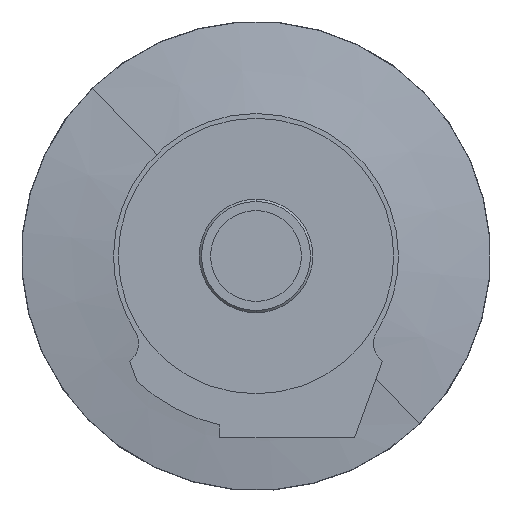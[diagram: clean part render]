
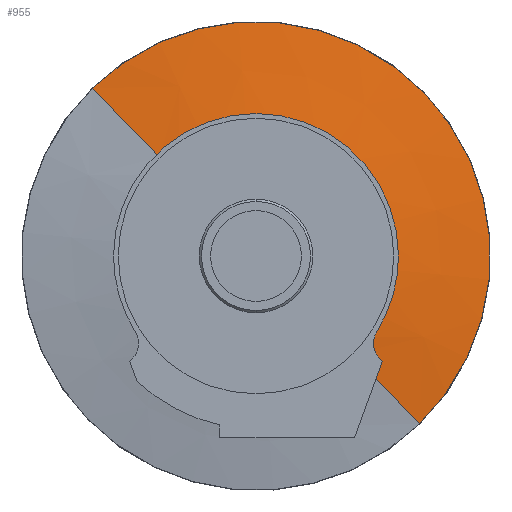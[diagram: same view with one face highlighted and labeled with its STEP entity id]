
A CAD part, front view. The second image highlights one B-rep face of the part: STEP entity #955.
In plain terms, the highlighted conical face has half-angle 81.265 degrees and reference radius 38.506 mm.
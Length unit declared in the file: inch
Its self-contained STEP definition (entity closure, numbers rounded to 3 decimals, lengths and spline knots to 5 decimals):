
#46 = ORIENTED_EDGE ( 'NONE', *, *, #3505, .T. ) ;
#67 = CARTESIAN_POINT ( 'NONE',  ( -8.56254, -4.92891, 0. ) ) ;
#85 = LINE ( 'NONE', #777, #4857 ) ;
#109 = CARTESIAN_POINT ( 'NONE',  ( -9.62027, -5.09211, 1.08603 ) ) ;
#273 = CARTESIAN_POINT ( 'NONE',  ( -7.50481, -5.09211, -1.08603 ) ) ;
#321 = DIRECTION ( 'NONE',  ( -0.698, 0., 0.716 ) ) ;
#328 = ORIENTED_EDGE ( 'NONE', *, *, #833, .T. ) ;
#437 = EDGE_CURVE ( 'NONE', #5892, #6292, #85, .T. ) ;
#777 = CARTESIAN_POINT ( 'NONE',  ( -9.62027, -5.09211, 1.08603 ) ) ;
#833 = EDGE_CURVE ( 'NONE', #5892, #2961, #5767, .T. ) ;
#955 = ADVANCED_FACE ( 'NONE', ( #3523 ), #6077, .T. ) ;
#962 = CARTESIAN_POINT ( 'NONE',  ( -10.36137, -4.92891, 1.84696 ) ) ;
#1006 = EDGE_LOOP ( 'NONE', ( #328, #46, #2243, #5765 ) ) ;
#1357 = DIRECTION ( 'NONE',  ( -0.69, 0.152, 0.708 ) ) ;
#1667 = AXIS2_PLACEMENT_3D ( 'NONE', #4406, #6032, #4454 ) ;
#1986 = EDGE_CURVE ( 'NONE', #5178, #6292, #4332, .T. ) ;
#2243 = ORIENTED_EDGE ( 'NONE', *, *, #1986, .T. ) ;
#2466 = DIRECTION ( 'NONE',  ( 0., 1., 0. ) ) ;
#2487 = CARTESIAN_POINT ( 'NONE',  ( -6.76371, -4.92891, -1.84696 ) ) ;
#2961 = VERTEX_POINT ( 'NONE', #273 ) ;
#3311 = CARTESIAN_POINT ( 'NONE',  ( -7.50481, -5.09211, -1.08603 ) ) ;
#3338 = LINE ( 'NONE', #3311, #5326 ) ;
#3357 = DIRECTION ( 'NONE',  ( 0.69, 0.152, -0.708 ) ) ;
#3505 = EDGE_CURVE ( 'NONE', #2961, #5178, #3338, .T. ) ;
#3523 = FACE_OUTER_BOUND ( 'NONE', #1006, .T. ) ;
#4332 = CIRCLE ( 'NONE', #5643, 2.57819 ) ;
#4406 = CARTESIAN_POINT ( 'NONE',  ( -8.56254, -5.09211, 0. ) ) ;
#4454 = DIRECTION ( 'NONE',  ( -0.698, 0., 0.716 ) ) ;
#4857 = VECTOR ( 'NONE', #1357, 39.37008 ) ;
#5078 = CARTESIAN_POINT ( 'NONE',  ( -8.56254, -5.09211, 0. ) ) ;
#5178 = VERTEX_POINT ( 'NONE', #2487 ) ;
#5326 = VECTOR ( 'NONE', #3357, 39.37008 ) ;
#5391 = DIRECTION ( 'NONE',  ( 0.698, 0., -0.716 ) ) ;
#5643 = AXIS2_PLACEMENT_3D ( 'NONE', #67, #6390, #5391 ) ;
#5765 = ORIENTED_EDGE ( 'NONE', *, *, #437, .F. ) ;
#5767 = CIRCLE ( 'NONE', #1667, 1.516 ) ;
#5892 = VERTEX_POINT ( 'NONE', #109 ) ;
#5936 = AXIS2_PLACEMENT_3D ( 'NONE', #5078, #2466, #321 ) ;
#6032 = DIRECTION ( 'NONE',  ( 0., 1., 0. ) ) ;
#6077 = CONICAL_SURFACE ( 'NONE', #5936, 1.516, 1.418 ) ;
#6292 = VERTEX_POINT ( 'NONE', #962 ) ;
#6390 = DIRECTION ( 'NONE',  ( 0., -1., 0. ) ) ;
